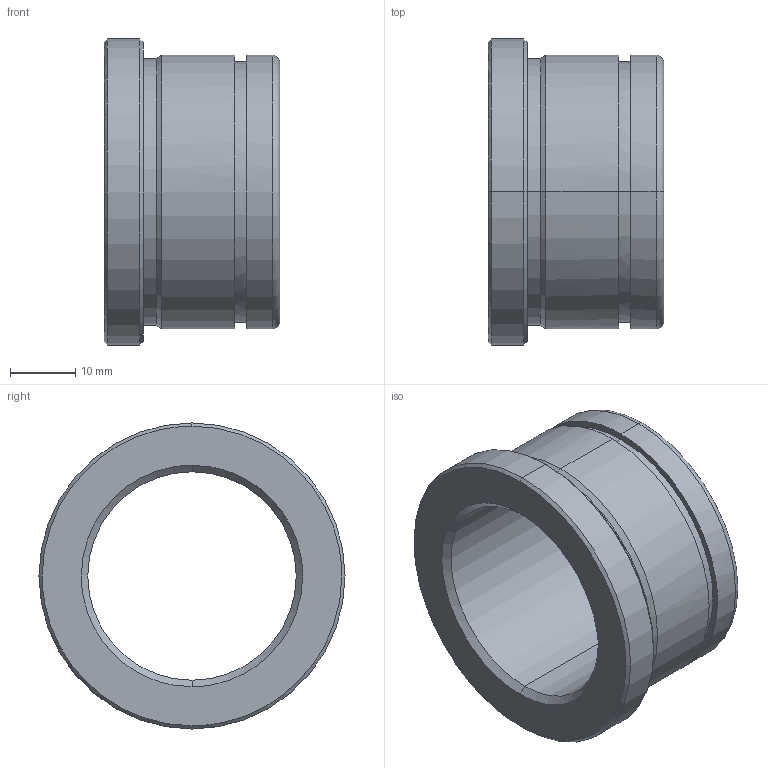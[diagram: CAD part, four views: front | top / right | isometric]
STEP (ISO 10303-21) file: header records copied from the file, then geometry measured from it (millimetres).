
FILE_DESCRIPTION(('CATIA V5 STEP Exchange'),'2;1');
FILE_NAME('C:\Users\Utente\Desktop\IO LAVORO\3D X SITO CF\X SITO\PLASTICA\553\553-32X27.stp','2021-05-26T18:48:18+00:00',('none'),('none'),'CATIA Version 5 Release 20 GA (IN-10)','CATIA V5 STEP AP203','none');
FILE_SCHEMA(('CONFIG_CONTROL_DESIGN'));
Length unit declared in the file: millimetre
Products named in the file (1): 553-32X27
Bounding box: 27 x 47 x 47 mm (x, y, z)
Volume: 17124.5 mm3; surface area: 8235.1 mm2
Topology: 1 solids, 1 shells, 29 faces, 92 edges, 68 vertices
Faces by surface type: cylinder 12, cone 8, plane 5, torus 4
Entity records: 1228 total; most frequent: CARTESIAN_POINT 378, ORIENTED_EDGE 184, DIRECTION 134, EDGE_CURVE 92, AXIS2_PLACEMENT_3D 86, VERTEX_POINT 68, CIRCLE 56, EDGE_LOOP 34
